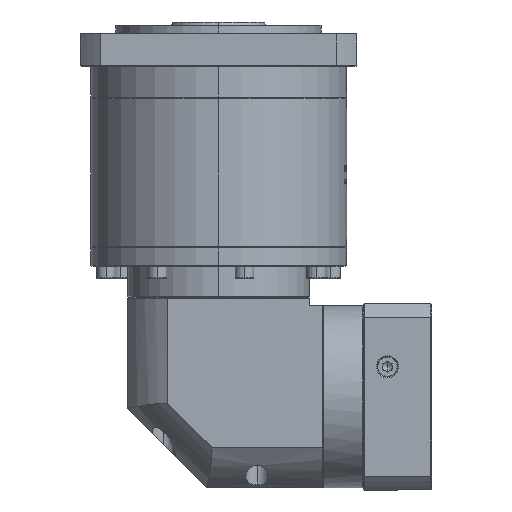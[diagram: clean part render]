
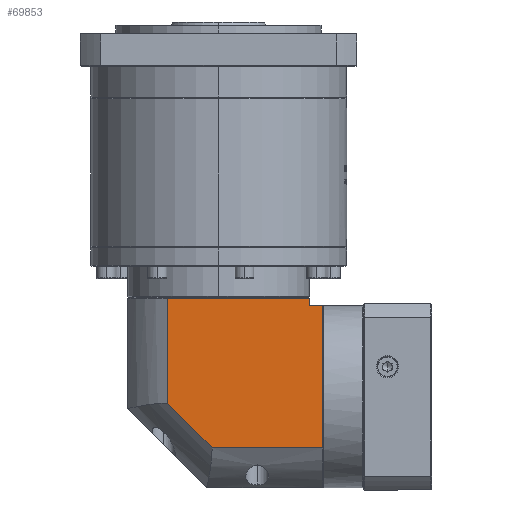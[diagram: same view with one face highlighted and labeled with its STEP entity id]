
A CAD part, left-side view. The second image highlights one B-rep face of the part: STEP entity #69853.
In plain terms, the highlighted planar face has unit normal (-1, 0, 0).
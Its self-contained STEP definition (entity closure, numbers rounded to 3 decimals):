
#7605 = EDGE_CURVE ( 'NONE', #91388, #77575, #123573, .T. ) ;
#9514 = LINE ( 'NONE', #39959, #119753 ) ;
#12792 = PLANE ( 'NONE',  #127689 ) ;
#14259 = ORIENTED_EDGE ( 'NONE', *, *, #140884, .T. ) ;
#14364 = CARTESIAN_POINT ( 'NONE',  ( -229.77, -29.207, 37.459 ) ) ;
#19529 = ORIENTED_EDGE ( 'NONE', *, *, #41440, .F. ) ;
#24799 = CARTESIAN_POINT ( 'NONE',  ( -229.77, -144.207, 25.959 ) ) ;
#25111 = VERTEX_POINT ( 'NONE', #83404 ) ;
#27438 = DIRECTION ( 'NONE',  ( 0., 1., 0. ) ) ;
#29442 = LINE ( 'NONE', #24799, #130140 ) ;
#31294 = CARTESIAN_POINT ( 'NONE',  ( -229.77, -152.607, 37.459 ) ) ;
#32108 = CARTESIAN_POINT ( 'NONE',  ( -229.77, -82.645, -63.941 ) ) ;
#34034 = ORIENTED_EDGE ( 'NONE', *, *, #131226, .F. ) ;
#35887 = DIRECTION ( 'NONE',  ( 0., 1., 0. ) ) ;
#39959 = CARTESIAN_POINT ( 'NONE',  ( -229.77, -144.207, -89.041 ) ) ;
#41440 = EDGE_CURVE ( 'NONE', #96144, #74838, #113947, .T. ) ;
#41531 = EDGE_CURVE ( 'NONE', #74838, #79714, #54241, .T. ) ;
#44596 = DIRECTION ( 'NONE',  ( 0., 0.707, 0.707 ) ) ;
#54241 = LINE ( 'NONE', #117829, #74716 ) ;
#54740 = ORIENTED_EDGE ( 'NONE', *, *, #149301, .F. ) ;
#57312 = VECTOR ( 'NONE', #44596, 1000. ) ;
#61907 = CARTESIAN_POINT ( 'NONE',  ( -229.77, -82.645, -63.941 ) ) ;
#63596 = VECTOR ( 'NONE', #95221, 1000. ) ;
#65178 = CARTESIAN_POINT ( 'NONE',  ( -229.77, -144.207, 25.959 ) ) ;
#67225 = VECTOR ( 'NONE', #80800, 1000. ) ;
#69853 = ADVANCED_FACE ( 'NONE', ( #85861 ), #12792, .F. ) ;
#70830 = CARTESIAN_POINT ( 'NONE',  ( -229.77, -152.607, -63.941 ) ) ;
#71738 = ORIENTED_EDGE ( 'NONE', *, *, #41531, .F. ) ;
#72225 = CARTESIAN_POINT ( 'NONE',  ( -229.77, -29.207, 30.959 ) ) ;
#72861 = LINE ( 'NONE', #72225, #63596 ) ;
#74011 = LINE ( 'NONE', #32108, #57312 ) ;
#74716 = VECTOR ( 'NONE', #35887, 1000. ) ;
#74838 = VERTEX_POINT ( 'NONE', #70830 ) ;
#74868 = DIRECTION ( 'NONE',  ( 0., 0., 1. ) ) ;
#77575 = VERTEX_POINT ( 'NONE', #95031 ) ;
#79714 = VERTEX_POINT ( 'NONE', #61907 ) ;
#80800 = DIRECTION ( 'NONE',  ( 0., 0., -1. ) ) ;
#82862 = EDGE_LOOP ( 'NONE', ( #82958, #34034, #71738, #19529, #14259, #143650, #54740 ) ) ;
#82958 = ORIENTED_EDGE ( 'NONE', *, *, #7605, .F. ) ;
#83404 = CARTESIAN_POINT ( 'NONE',  ( -229.77, -144.207, 30.959 ) ) ;
#85861 = FACE_OUTER_BOUND ( 'NONE', #82862, .T. ) ;
#91388 = VERTEX_POINT ( 'NONE', #105506 ) ;
#95031 = CARTESIAN_POINT ( 'NONE',  ( -229.77, -54.307, 30.959 ) ) ;
#95221 = DIRECTION ( 'NONE',  ( 0., -1., 0. ) ) ;
#96144 = VERTEX_POINT ( 'NONE', #128156 ) ;
#98930 = DIRECTION ( 'NONE',  ( 1., 0., 0. ) ) ;
#105506 = CARTESIAN_POINT ( 'NONE',  ( -229.77, -54.307, -35.603 ) ) ;
#106298 = DIRECTION ( 'NONE',  ( 0., 1., 0. ) ) ;
#113947 = LINE ( 'NONE', #31294, #67225 ) ;
#117244 = CARTESIAN_POINT ( 'NONE',  ( -229.77, -54.307, 37.459 ) ) ;
#117829 = CARTESIAN_POINT ( 'NONE',  ( -229.77, -29.207, -63.941 ) ) ;
#118756 = DIRECTION ( 'NONE',  ( 0., 0., 1. ) ) ;
#119753 = VECTOR ( 'NONE', #74868, 1000. ) ;
#119835 = VECTOR ( 'NONE', #118756, 1000. ) ;
#123289 = VERTEX_POINT ( 'NONE', #65178 ) ;
#123573 = LINE ( 'NONE', #117244, #119835 ) ;
#127689 = AXIS2_PLACEMENT_3D ( 'NONE', #14364, #98930, #27438 ) ;
#128156 = CARTESIAN_POINT ( 'NONE',  ( -229.77, -152.607, 25.959 ) ) ;
#130140 = VECTOR ( 'NONE', #106298, 1000. ) ;
#131226 = EDGE_CURVE ( 'NONE', #79714, #91388, #74011, .T. ) ;
#135986 = EDGE_CURVE ( 'NONE', #123289, #25111, #9514, .T. ) ;
#140884 = EDGE_CURVE ( 'NONE', #96144, #123289, #29442, .T. ) ;
#143650 = ORIENTED_EDGE ( 'NONE', *, *, #135986, .T. ) ;
#149301 = EDGE_CURVE ( 'NONE', #77575, #25111, #72861, .T. ) ;
